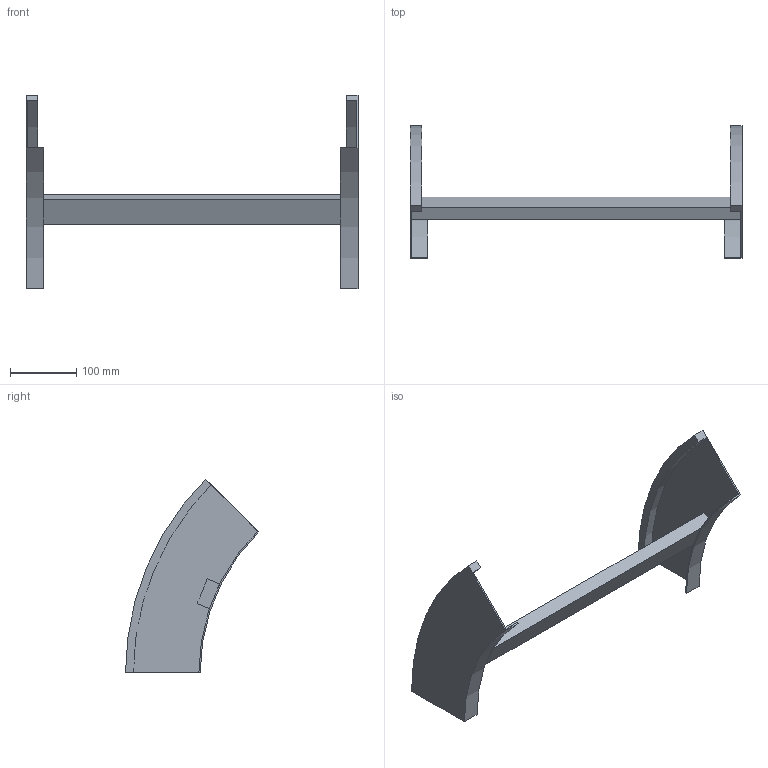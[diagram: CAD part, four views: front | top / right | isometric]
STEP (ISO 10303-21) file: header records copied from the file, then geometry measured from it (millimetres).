
FILE_DESCRIPTION (( 'STEP AP214' ), '1' );
FILE_NAME ('B2_34B3J500.step', '2025-02-21T14:53:53', ( '' ), ( '' ), 'SwSTEP 2.0', 'SolidWorks 2023', '' );
FILE_SCHEMA (( 'AUTOMOTIVE_DESIGN' ));
Length unit declared in the file: millimetre
Products named in the file (3): B2_LONGH.DISCESA_45°_H112.5_R300; TRAVERSINO_500; B2_34B3J500
Assembly tree (3 placements, depth 2):
  B2_34B3J500
    B2_LONGH.DISCESA_45°_H112.5_R300  x2
    TRAVERSINO_500
Bounding box: 500 x 200.37 x 291.68 mm (x, y, z)
Volume: 673907.1 mm3; surface area: 235724.9 mm2
Topology: 3 solids, 3 shells, 26 faces, 60 edges, 40 vertices
Faces by surface type: plane 18, cylinder 8
Entity records: 544 total; most frequent: DIRECTION 88, CARTESIAN_POINT 82, ORIENTED_EDGE 72, EDGE_CURVE 36, AXIS2_PLACEMENT_3D 30, LINE 28, VECTOR 28, VERTEX_POINT 24
